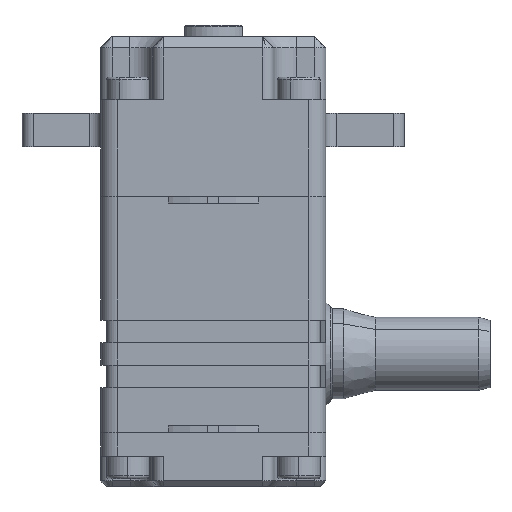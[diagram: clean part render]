
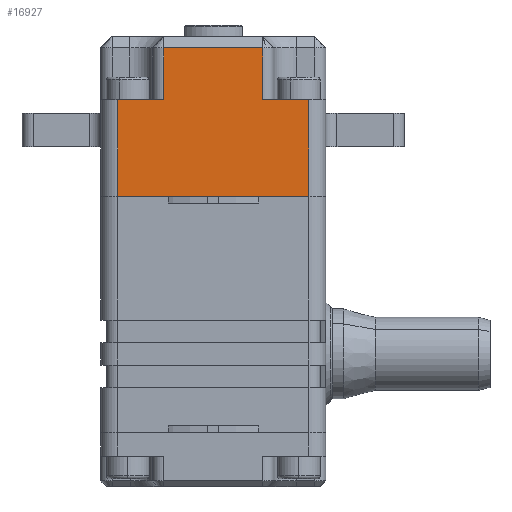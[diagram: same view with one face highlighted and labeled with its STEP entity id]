
A CAD part, left-side view. The second image highlights one B-rep face of the part: STEP entity #16927.
In plain terms, the highlighted planar face has unit normal (-1, 0, 0).
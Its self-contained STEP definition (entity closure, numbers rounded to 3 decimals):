
#59 = EDGE_CURVE ( 'NONE', #13646, #13522, #6958, .T. ) ;
#377 = CARTESIAN_POINT ( 'NONE',  ( -59.26, -15.228, 21.55 ) ) ;
#599 = CARTESIAN_POINT ( 'NONE',  ( -59.26, -10.278, 13.015 ) ) ;
#712 = EDGE_CURVE ( 'NONE', #10495, #16105, #8459, .T. ) ;
#730 = DIRECTION ( 'NONE',  ( 0., 0., -1. ) ) ;
#874 = CARTESIAN_POINT ( 'NONE',  ( -59.26, -10.278, 16.95 ) ) ;
#1430 = LINE ( 'NONE', #599, #19886 ) ;
#1560 = FACE_OUTER_BOUND ( 'NONE', #9851, .T. ) ;
#1942 = VECTOR ( 'NONE', #3323, 1000. ) ;
#2095 = VECTOR ( 'NONE', #2261, 1000. ) ;
#2261 = DIRECTION ( 'NONE',  ( 0., 1., 0. ) ) ;
#3134 = CARTESIAN_POINT ( 'NONE',  ( -59.26, -14.378, 8.35 ) ) ;
#3323 = DIRECTION ( 'NONE',  ( 0., 1., 0. ) ) ;
#3618 = DIRECTION ( 'NONE',  ( 0., 0., -1. ) ) ;
#4385 = VERTEX_POINT ( 'NONE', #874 ) ;
#5590 = DIRECTION ( 'NONE',  ( 0., 0., 1. ) ) ;
#5711 = VERTEX_POINT ( 'NONE', #3134 ) ;
#5898 = DIRECTION ( 'NONE',  ( 0., 1., 0. ) ) ;
#5927 = VECTOR ( 'NONE', #730, 1000. ) ;
#6293 = EDGE_CURVE ( 'NONE', #16105, #13522, #18766, .T. ) ;
#6350 = DIRECTION ( 'NONE',  ( 0., 0., 1. ) ) ;
#6446 = DIRECTION ( 'NONE',  ( 0., 0., 1. ) ) ;
#6449 = EDGE_CURVE ( 'NONE', #13306, #13646, #18517, .T. ) ;
#6575 = CARTESIAN_POINT ( 'NONE',  ( -59.26, 2.622, 8.225 ) ) ;
#6581 = CARTESIAN_POINT ( 'NONE',  ( -59.26, -14.378, 16.95 ) ) ;
#6712 = ORIENTED_EDGE ( 'NONE', *, *, #6449, .T. ) ;
#6958 = LINE ( 'NONE', #20352, #5927 ) ;
#7367 = LINE ( 'NONE', #9287, #14020 ) ;
#7697 = EDGE_CURVE ( 'NONE', #5711, #10495, #15832, .T. ) ;
#7707 = CARTESIAN_POINT ( 'NONE',  ( -59.26, 2.622, 16.95 ) ) ;
#8009 = ORIENTED_EDGE ( 'NONE', *, *, #7697, .F. ) ;
#8279 = VECTOR ( 'NONE', #9600, 1000. ) ;
#8323 = CARTESIAN_POINT ( 'NONE',  ( -59.26, -1.478, 21.55 ) ) ;
#8459 = LINE ( 'NONE', #6575, #19210 ) ;
#9241 = ORIENTED_EDGE ( 'NONE', *, *, #19176, .F. ) ;
#9287 = CARTESIAN_POINT ( 'NONE',  ( -59.26, -15.228, 16.95 ) ) ;
#9600 = DIRECTION ( 'NONE',  ( 0., -1., 0. ) ) ;
#9851 = EDGE_LOOP ( 'NONE', ( #16070, #8009, #9241, #14058, #19748, #6712, #21268, #11263 ) ) ;
#10000 = CARTESIAN_POINT ( 'NONE',  ( -59.26, -10.278, 21.55 ) ) ;
#10495 = VERTEX_POINT ( 'NONE', #13592 ) ;
#11263 = ORIENTED_EDGE ( 'NONE', *, *, #6293, .F. ) ;
#11910 = CARTESIAN_POINT ( 'NONE',  ( -59.26, -14.378, 21.05 ) ) ;
#13306 = VERTEX_POINT ( 'NONE', #10000 ) ;
#13522 = VERTEX_POINT ( 'NONE', #15737 ) ;
#13538 = EDGE_CURVE ( 'NONE', #15242, #4385, #7367, .T. ) ;
#13592 = CARTESIAN_POINT ( 'NONE',  ( -59.26, 2.622, 8.35 ) ) ;
#13646 = VERTEX_POINT ( 'NONE', #8323 ) ;
#14020 = VECTOR ( 'NONE', #5898, 1000. ) ;
#14058 = ORIENTED_EDGE ( 'NONE', *, *, #13538, .T. ) ;
#14525 = PLANE ( 'NONE',  #19645 ) ;
#14671 = CARTESIAN_POINT ( 'NONE',  ( -59.26, -14.378, 8.35 ) ) ;
#15242 = VERTEX_POINT ( 'NONE', #6581 ) ;
#15737 = CARTESIAN_POINT ( 'NONE',  ( -59.26, -1.478, 16.95 ) ) ;
#15832 = LINE ( 'NONE', #14671, #1942 ) ;
#16070 = ORIENTED_EDGE ( 'NONE', *, *, #712, .F. ) ;
#16105 = VERTEX_POINT ( 'NONE', #7707 ) ;
#16927 = ADVANCED_FACE ( 'NONE', ( #1560 ), #14525, .T. ) ;
#18193 = LINE ( 'NONE', #11910, #20491 ) ;
#18517 = LINE ( 'NONE', #377, #2095 ) ;
#18766 = LINE ( 'NONE', #21109, #8279 ) ;
#19176 = EDGE_CURVE ( 'NONE', #15242, #5711, #18193, .T. ) ;
#19210 = VECTOR ( 'NONE', #6446, 1000. ) ;
#19437 = DIRECTION ( 'NONE',  ( -1., 0., 0. ) ) ;
#19645 = AXIS2_PLACEMENT_3D ( 'NONE', #20575, #19437, #6350 ) ;
#19748 = ORIENTED_EDGE ( 'NONE', *, *, #20167, .T. ) ;
#19886 = VECTOR ( 'NONE', #5590, 1000. ) ;
#20167 = EDGE_CURVE ( 'NONE', #4385, #13306, #1430, .T. ) ;
#20352 = CARTESIAN_POINT ( 'NONE',  ( -59.26, -1.478, 13.015 ) ) ;
#20491 = VECTOR ( 'NONE', #3618, 1000. ) ;
#20575 = CARTESIAN_POINT ( 'NONE',  ( -59.26, -15.228, 8.225 ) ) ;
#21109 = CARTESIAN_POINT ( 'NONE',  ( -59.26, -1.128, 16.95 ) ) ;
#21268 = ORIENTED_EDGE ( 'NONE', *, *, #59, .T. ) ;
